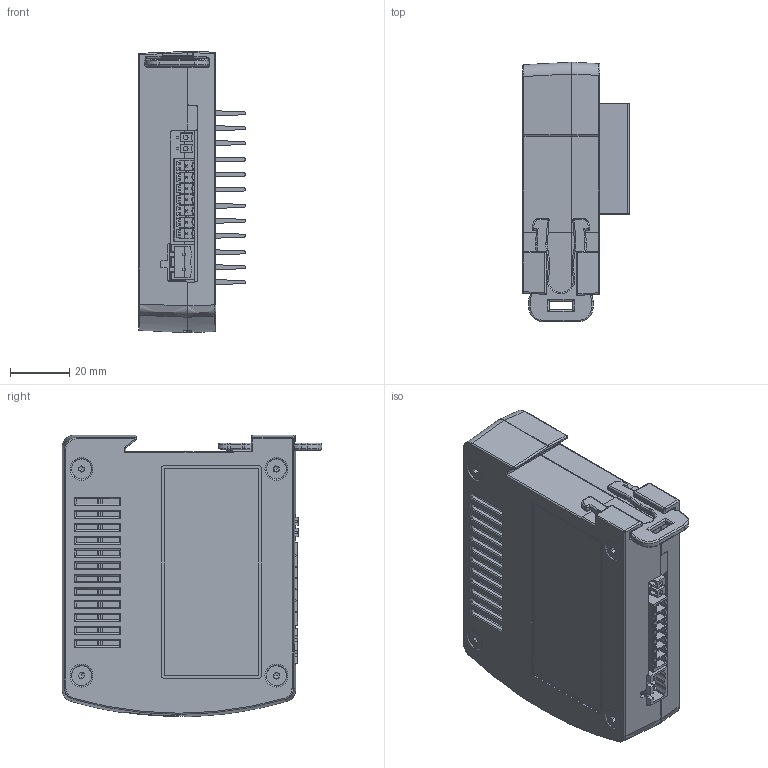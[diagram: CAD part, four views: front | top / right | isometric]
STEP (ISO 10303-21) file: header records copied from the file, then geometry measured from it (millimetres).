
FILE_DESCRIPTION (( 'STEP AP214' ), '1' );
FILE_NAME ('02524.00 Controller CTR-50 ohne Platine.STEP', '2022-10-17T12:08:52', ( '' ), ( '' ), 'SwSTEP 2.0', 'SolidWorks 2022', '' );
FILE_SCHEMA (( 'AUTOMOTIVE_DESIGN' ));
Length unit declared in the file: millimetre
Products named in the file (9): 02526.00 Gehäuseunterteil CTR Serie; DIN 934 M3; 02525.01 Gehäuseoberteil CTR Serie; 00652.06 in Arbeit CTR-Platine, 50 V30,; 02655.00 Senkkopfschraube M3x25,; 02524.00 Controller CTR-50 ohne Platine; 02528.00 Hutschienenclip CTR 50,51; 00760.02 Kühlkörper CTR Serie; 02532.00 Aufkleber Typenschild CTR-50
Assembly tree (14 placements, depth 2):
  02524.00 Controller CTR-50 ohne Platine
    00652.06 in Arbeit CTR-Platine, 50 V30,
    02528.00 Hutschienenclip CTR 50,51
    00760.02 Kühlkörper CTR Serie
    02655.00 Senkkopfschraube M3x25,  x4
    02532.00 Aufkleber Typenschild CTR-50
    02526.00 Gehäuseunterteil CTR Serie
    02525.01 Gehäuseoberteil CTR Serie
    DIN 934 M3  x4
Bounding box: 36.2 x 87.92 x 95.37 mm (x, y, z)
Volume: 52305 mm3; surface area: 68200.2 mm2
Topology: 33 solids, 33 shells, 1913 faces, 4808 edges, 2974 vertices
Faces by surface type: plane 947, cylinder 590, bspline 152, cone 146, torus 61, sphere 17
Entity records: 62066 total; most frequent: CARTESIAN_POINT 15259, ORIENTED_EDGE 9010, DIRECTION 7758, EDGE_CURVE 4505, VERTEX_POINT 2807, LINE 2756, VECTOR 2756, AXIS2_PLACEMENT_3D 2501
